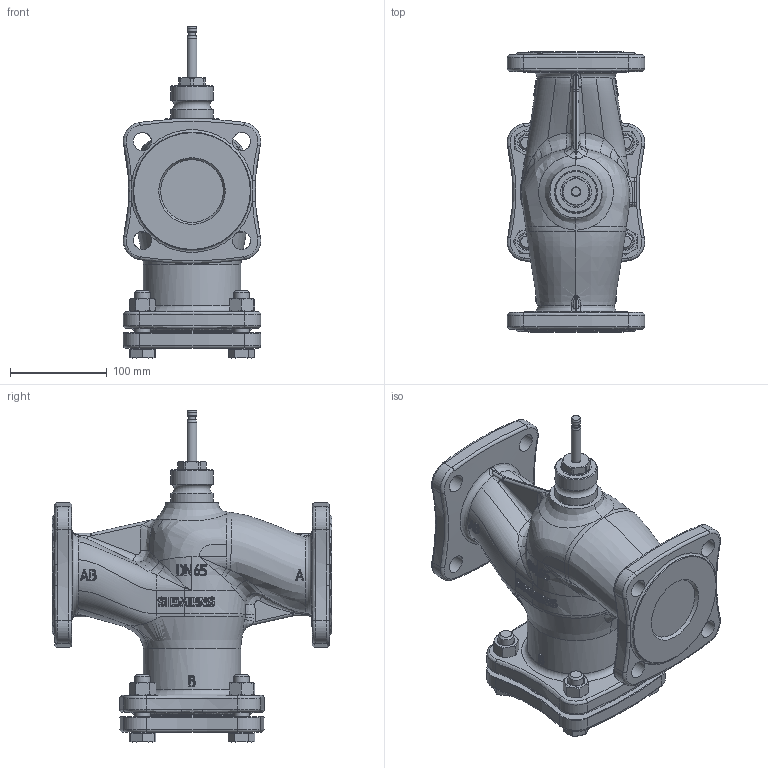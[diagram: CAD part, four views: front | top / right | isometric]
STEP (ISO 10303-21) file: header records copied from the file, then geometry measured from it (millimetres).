
FILE_DESCRIPTION(/* description */ (''),/* implementation_level */ '2;1');
FILE_NAME(/* name */ 'DN65.stp',/* time_stamp */ '2016-04-27T12:06:07+08:00',/* author */ (''),/* organization */ (''),/* preprocessor_version */ 'ST-DEVELOPER v15',/* originating_system */ 'SIEMENS PLM Software NX 8.5',/* authorisation */ '');
FILE_SCHEMA (('AP203_CONFIGURATION_CONTROLLED_3D_DESIGN_OF_MECHANICAL_PARTS_AND_ASSEMBLIES_MIM_LF { 1 0 10303 403 2 1 2}'));
Products named in the file (1): z00313A471389oed
Bounding box: 142.48 x 290 x 344 mm (x, y, z)
Volume: 4109609.2 mm3; surface area: 293863.1 mm2
Topology: 1 solids, 1 shells, 1581 faces, 3653 edges, 2038 vertices
Faces by surface type: bspline 878, cylinder 255, plane 190, cone 115, sphere 104, torus 33, extrusion 6
Full cylindrical faces by diameter (mm): 2 x2, 7 x1, 10 x2, 15.732 x8, 19 x16, 22.5 x4, 28 x1, 32 x1, 44 x2, 101 x1, 120 x1
Entity records: 155513 total; most frequent: CARTESIAN_POINT 127147, ORIENTED_EDGE 6912, DIRECTION 4310, EDGE_CURVE 3456, VERTEX_POINT 2001, AXIS2_PLACEMENT_3D 1879, EDGE_LOOP 1735, ADVANCED_FACE 1581
